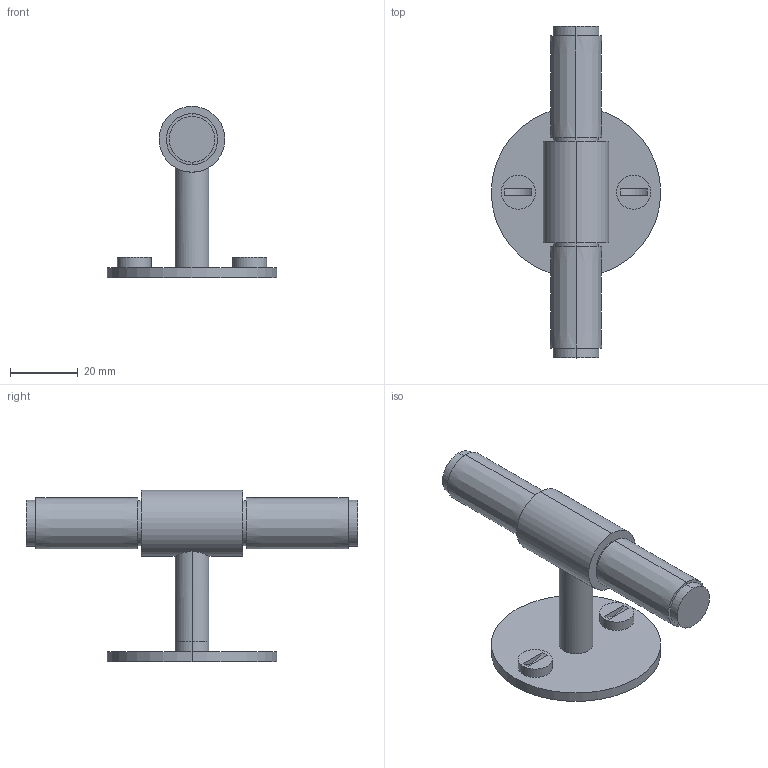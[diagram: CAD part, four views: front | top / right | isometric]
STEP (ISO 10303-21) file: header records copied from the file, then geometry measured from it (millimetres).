
FILE_DESCRIPTION (( 'STEP AP203' ), '1' );
FILE_NAME ('T-Bar - T-Bar with Circular Plate.STEP', '2016-10-12T14:53:29', ( '' ), ( '' ), 'SwSTEP 2.0', 'SolidWorks 2014', '' );
FILE_SCHEMA (( 'CONFIG_CONTROL_DESIGN' ));
Length unit declared in the file: millimetre
Products named in the file (1): T-Bar - T-Bar with Circular Plate
Bounding box: 50 x 97.83 x 50.51 mm (x, y, z)
Volume: 29289.2 mm3; surface area: 11135.4 mm2
Topology: 1 solids, 1 shells, 42 faces, 85 edges, 54 vertices
Faces by surface type: cylinder 20, plane 14, cone 8
Entity records: 1258 total; most frequent: CARTESIAN_POINT 260, DIRECTION 213, ORIENTED_EDGE 170, AXIS2_PLACEMENT_3D 89, EDGE_CURVE 85, VERTEX_POINT 54, EDGE_LOOP 51, CIRCLE 46
